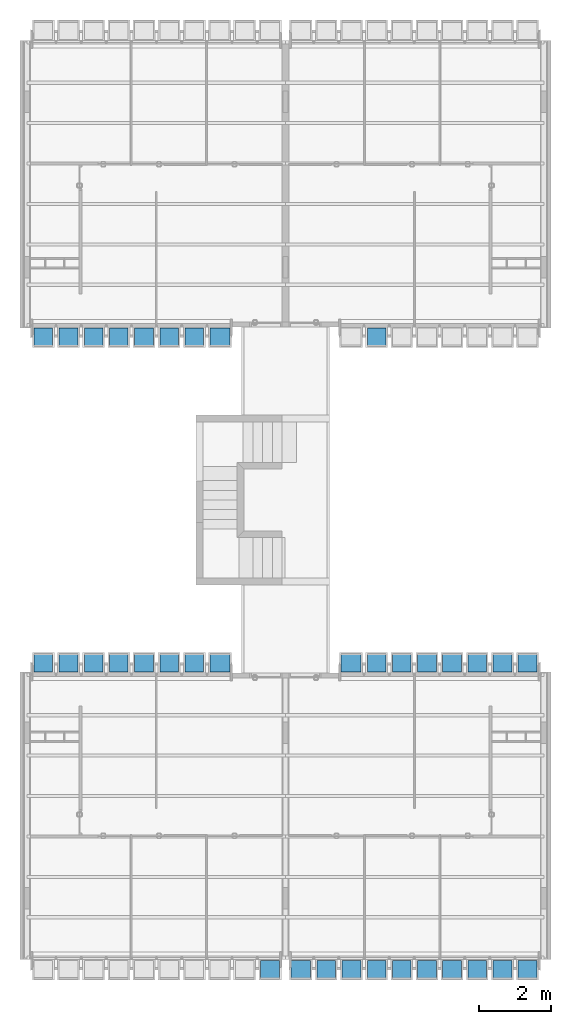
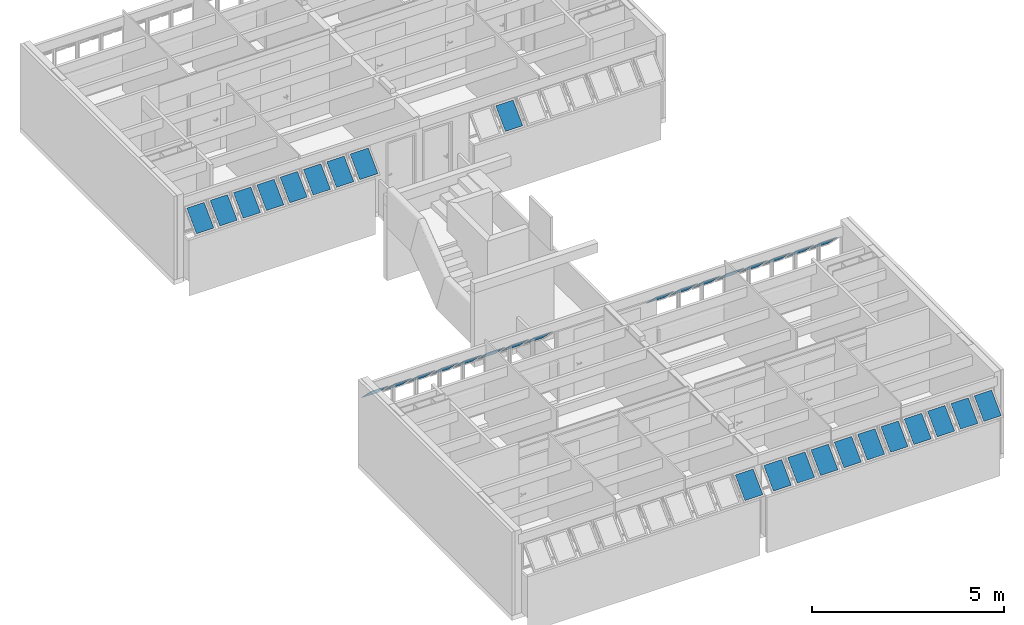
# One storey, part 36 of 38: 36 building element parts, 42 elements without a shape of their own.
"""IFC2X3 building model written with IfcOpenShell, lengths in millimetres."""

from ifc_helpers import new_model, entity, si_unit, converted_unit, derived_unit, money_unit, direction, frame, origin_with_axes, place, context, subcontext, project, spatial, faceted_brep, source, transform, mapped, material, type_object, element, aggregate, save


model = new_model("IFC2X3")

# Units and contexts
model_context = context("Model", 3, precision=0.01, world=origin_with_axes(), true_north=direction((0.0, 1.0)))
body_context = subcontext(model_context, "Body", "Model", "MODEL_VIEW")
ifc_project = project(units=[si_unit("LENGTHUNIT", "METRE", prefix="MILLI"), si_unit("AREAUNIT", "SQUARE_METRE"), si_unit("VOLUMEUNIT", "CUBIC_METRE"), converted_unit("PLANEANGLEUNIT", "DEGREE", entity("IfcPlaneAngleMeasure", 0.0174532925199), si_unit("PLANEANGLEUNIT", "RADIAN"), dimensions=[0, 0, 0, 0, 0, 0, 0]), money_unit("USD"), converted_unit("TIMEUNIT", "Year", entity("IfcTimeMeasure", 31556926.0), si_unit("TIMEUNIT", "SECOND"), dimensions=[0, 0, 1, 0, 0, 0, 0]), si_unit("MASSUNIT", "GRAM", prefix="KILO"), si_unit("THERMODYNAMICTEMPERATUREUNIT", "DEGREE_CELSIUS"), si_unit("LUMINOUSINTENSITYUNIT", "LUMEN"), si_unit("ENERGYUNIT", "JOULE", prefix="MEGA"), derived_unit("THERMALCONDUCTANCEUNIT", [(si_unit("POWERUNIT", "WATT"), 1), (si_unit("LENGTHUNIT", "METRE"), -1), (si_unit("THERMODYNAMICTEMPERATUREUNIT", "KELVIN"), -1)]), derived_unit("SPECIFICHEATCAPACITYUNIT", [(si_unit("ENERGYUNIT", "JOULE"), 1), (si_unit("MASSUNIT", "GRAM", prefix="KILO"), -1), (si_unit("THERMODYNAMICTEMPERATUREUNIT", "KELVIN"), -1)]), derived_unit("MASSDENSITYUNIT", [(si_unit("MASSUNIT", "GRAM", prefix="KILO"), 1), (si_unit("VOLUMEUNIT", "CUBIC_METRE"), -1)])], contexts=[model_context])

# Site, building, storey
site_placement = place(None, origin_with_axes())
site = spatial("IfcSite", under=ifc_project, at=site_placement, Name="Local", CompositionType="ELEMENT")
building_placement = place(site_placement, origin_with_axes())
building = spatial("IfcBuilding", under=site, at=building_placement, Name="Construção", CompositionType="ELEMENT")
storey_placement = place(building_placement, frame((0.0, 0.0, 2650.0), z_axis=(0.0, 0.0, 1.0), x_axis=(1.0, 0.0, 0.0)))
storey = spatial("IfcBuildingStorey", under=building, at=storey_placement, Name="Segundo Pavimento", CompositionType="ELEMENT", Elevation=2650.0)

# Window, plates, building element parts
window_style = type_object("IfcWindowStyle", Name="Tipo de Parede Cortina", ConstructionType="NOTDEFINED", OperationType="NOTDEFINED", ParameterTakesPrecedence=False, Sizeable=False)
window_1_placement = place(storey_placement, frame((12020.0, 8250.0, 1355.00007107), z_axis=(0.0, 0.0, 1.0), x_axis=(1.0, 0.0, 0.0)))
window_1 = element("IfcWindow", 1, at=window_1_placement, inside=storey, type_object=window_style, Name="APTO6-JANELA-000")
plate_type_1 = type_object("IfcPlateType", Name="Painel Principal 690 x 845 x 20", PredefinedType="CURTAIN_PANEL")
plate_1_placement = place(window_1_placement, frame((0.0, 0.0, 422.499964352), z_axis=(0.0, 0.0, 1.0), x_axis=(1.0, 0.0, 0.0)))
plate_1 = element("IfcPlate", 2, at=plate_1_placement, type_object=plate_type_1, Name="APTO6-Painel-Prin-013")
ifc_material = material(Name="Vidro")
shared_shape_1 = source(origin_with_axes(), body_context, "Body", "Brep", [
    faceted_brep([(90.0000036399, 272.749572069, 537.551834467), (609.999997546, 272.749572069, 537.551834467), (609.999997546, 284.063280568, 548.865542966), (90.0000036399, 284.063280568, 548.865542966), (90.0000036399, 778.330843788, 31.9705627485), (609.999997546, 778.330843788, 31.9705627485), (609.999997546, 789.644552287, 43.2842712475), (90.0000036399, 789.644552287, 43.2842712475)], [[[0, 1, 2, 3]], [[0, 4, 5, 1]], [[1, 5, 6, 2]], [[3, 2, 6, 7]], [[4, 0, 3, 7]], [[5, 4, 7, 6]]]),
])
building_element_part_1_placement = place(plate_1_placement, origin_with_axes())
building_element_part_1 = element("IfcBuildingElementPart", 3, at=building_element_part_1_placement, material=ifc_material, Name="Vidro", context=body_context, shape_type="MappedRepresentation", body=[
    mapped(shared_shape_1, transform((350.0, 0.0, -422.499964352), x_axis=(-1.0, 0.0, 0.0), y_axis=(0.0, 0.0, 1.0), z_axis=(0.0, 1.0, 0.0))),
])
aggregate(plate_1, [building_element_part_1])
plate_2_placement = place(window_1_placement, frame((-2100.0, 0.0, 422.499964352), z_axis=(0.0, 0.0, 1.0), x_axis=(1.0, 0.0, 0.0)))
plate_2 = element("IfcPlate", 4, at=plate_2_placement, type_object=plate_type_1, Name="APTO6-Painel-Prin-029")
building_element_part_2_placement = place(plate_2_placement, origin_with_axes())
building_element_part_2 = element("IfcBuildingElementPart", 5, at=building_element_part_2_placement, material=ifc_material, Name="Vidro", context=body_context, shape_type="MappedRepresentation", body=[
    mapped(shared_shape_1, transform((350.0, 0.0, -422.499964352), x_axis=(-1.0, 0.0, 0.0), y_axis=(0.0, 0.0, 1.0), z_axis=(0.0, 1.0, 0.0))),
])
aggregate(plate_2, [building_element_part_2])

window_2_placement = place(storey_placement, frame((2750.0, 17910.0, 1355.00007107), z_axis=(0.0, 0.0, 1.0), x_axis=(1.0, 0.0, 0.0)))
window_2 = element("IfcWindow", 6, at=window_2_placement, inside=storey, type_object=window_style, Name="APTO7-JANELA-000")
plate_3_placement = place(window_2_placement, frame((0.0, 0.0, 422.499964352), z_axis=(0.0, 0.0, 1.0), x_axis=(-1.0, 0.0, 0.0)))
plate_3 = element("IfcPlate", 7, at=plate_3_placement, type_object=plate_type_1, Name="APTO7-Painel-Prin-013")
building_element_part_3_placement = place(plate_3_placement, origin_with_axes())
building_element_part_3 = element("IfcBuildingElementPart", 8, at=building_element_part_3_placement, material=ifc_material, Name="Vidro", context=body_context, shape_type="MappedRepresentation", body=[
    mapped(shared_shape_1, transform((350.0, 0.0, -422.499964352), x_axis=(-1.0, 0.0, 0.0), y_axis=(0.0, 0.0, 1.0), z_axis=(0.0, 1.0, 0.0))),
])
aggregate(plate_3, [building_element_part_3])
plate_4_placement = place(window_2_placement, frame((2100.0, 0.0, 422.499964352), z_axis=(0.0, 0.0, 1.0), x_axis=(-1.0, 0.0, 0.0)))
plate_4 = element("IfcPlate", 9, at=plate_4_placement, type_object=plate_type_1, Name="APTO7-Painel-Prin-029")
building_element_part_4_placement = place(plate_4_placement, origin_with_axes())
building_element_part_4 = element("IfcBuildingElementPart", 10, at=building_element_part_4_placement, material=ifc_material, Name="Vidro", context=body_context, shape_type="MappedRepresentation", body=[
    mapped(shared_shape_1, transform((350.0, 0.0, -422.499964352), x_axis=(-1.0, 0.0, 0.0), y_axis=(0.0, 0.0, 1.0), z_axis=(0.0, 1.0, 0.0))),
])
aggregate(plate_4, [building_element_part_4])

# Window, plate, building element part
window_3_placement = place(storey_placement, frame((6250.0, 315.020977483, 1355.02054151), z_axis=(0.0, 0.0, 1.0), x_axis=(1.0, 0.0, 0.0)))
window_3 = element("IfcWindow", 11, at=window_3_placement, inside=storey, type_object=window_style, Name="APTO5-JANELA-001")
plate_type_2 = type_object("IfcPlateType", Name="Painel Principal 685 x 845 x 20", PredefinedType="CURTAIN_PANEL")
plate_5_placement = place(window_3_placement, frame((695.000037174, 0.0, 422.499953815), z_axis=(0.0, 0.0, 1.0), x_axis=(-1.0, 0.0, 0.0)))
plate_5 = element("IfcPlate", 12, at=plate_5_placement, type_object=plate_type_2, Name="APTO5-Painel-Prin-031")
aggregate(window_3, [plate_5])
shared_shape_2 = source(origin_with_axes(), body_context, "Body", "Brep", [
    faceted_brep([(90.0000046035, 272.749581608, 537.551857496), (625.000079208, 272.749581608, 537.551857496), (625.000079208, 284.063290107, 548.865565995), (90.0000046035, 284.063290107, 548.865565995), (90.0000046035, 778.330876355, 31.9705627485), (625.000079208, 778.330876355, 31.9705627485), (625.000079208, 789.644584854, 43.2842712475), (90.0000046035, 789.644584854, 43.2842712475)], [[[0, 1, 2, 3]], [[0, 4, 5, 1]], [[1, 5, 6, 2]], [[3, 2, 6, 7]], [[4, 0, 3, 7]], [[5, 4, 7, 6]]]),
])
building_element_part_5_placement = place(plate_5_placement, origin_with_axes())
building_element_part_5 = element("IfcBuildingElementPart", 13, at=building_element_part_5_placement, material=ifc_material, Name="Vidro", context=body_context, shape_type="MappedRepresentation", body=[
    mapped(shared_shape_2, transform((345.000037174, 0.0, -422.499953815), x_axis=(-1.0, 0.0, 0.0), y_axis=(0.0, 0.0, 1.0), z_axis=(0.0, 1.0, 0.0))),
])
aggregate(plate_5, [building_element_part_5])

# Plate, building element part
plate_6_placement = place(window_1_placement, frame((2100.0, 0.0, 422.499998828), z_axis=(0.0, 0.0, 1.0), x_axis=(1.0, 0.0, 0.0)))
plate_6 = element("IfcPlate", 14, at=plate_6_placement, type_object=plate_type_1, Name="APTO6-Painel-Prin-013")
shared_shape_3 = source(origin_with_axes(), body_context, "Body", "Brep", [
    faceted_brep([(90.0000036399, 272.749572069, 537.551834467), (609.999997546, 272.749572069, 537.551834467), (609.999997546, 284.063280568, 548.865542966), (90.0000036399, 284.063280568, 548.865542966), (90.0000036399, 778.330843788, 31.9705627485), (609.999997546, 778.330843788, 31.9705627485), (609.999997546, 789.644552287, 43.2842712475), (90.0000036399, 789.644552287, 43.2842712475)], [[[0, 1, 2, 3]], [[0, 4, 5, 1]], [[1, 5, 6, 2]], [[3, 2, 6, 7]], [[4, 0, 3, 7]], [[5, 4, 7, 6]]]),
])
building_element_part_6_placement = place(plate_6_placement, origin_with_axes())
building_element_part_6 = element("IfcBuildingElementPart", 15, at=building_element_part_6_placement, material=ifc_material, Name="Vidro", context=body_context, shape_type="MappedRepresentation", body=[
    mapped(shared_shape_3, transform((350.0, 0.0, -422.499998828), x_axis=(-1.0, 0.0, 0.0), y_axis=(0.0, 0.0, 1.0), z_axis=(0.0, 1.0, 0.0))),
])
aggregate(plate_6, [building_element_part_6])

plate_7_placement = place(window_1_placement, frame((1400.0, 0.0, 422.499964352), z_axis=(0.0, 0.0, 1.0), x_axis=(1.0, 0.0, 0.0)))
plate_7 = element("IfcPlate", 16, at=plate_7_placement, type_object=plate_type_1, Name="APTO6-Painel-Prin-013")
building_element_part_7_placement = place(plate_7_placement, origin_with_axes())
building_element_part_7 = element("IfcBuildingElementPart", 17, at=building_element_part_7_placement, material=ifc_material, Name="Vidro", context=body_context, shape_type="MappedRepresentation", body=[
    mapped(shared_shape_3, transform((350.0, 0.0, -422.499964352), x_axis=(-1.0, 0.0, 0.0), y_axis=(0.0, 0.0, 1.0), z_axis=(0.0, 1.0, 0.0))),
])
aggregate(plate_7, [building_element_part_7])

plate_8_placement = place(window_1_placement, frame((-1400.0, 0.0, 422.499964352), z_axis=(0.0, 0.0, 1.0), x_axis=(1.0, 0.0, 0.0)))
plate_8 = element("IfcPlate", 18, at=plate_8_placement, type_object=plate_type_1, Name="APTO6-Painel-Prin-025")
building_element_part_8_placement = place(plate_8_placement, origin_with_axes())
building_element_part_8 = element("IfcBuildingElementPart", 19, at=building_element_part_8_placement, material=ifc_material, Name="Vidro", context=body_context, shape_type="MappedRepresentation", body=[
    mapped(shared_shape_3, transform((350.0, 0.0, -422.499964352), x_axis=(-1.0, 0.0, 0.0), y_axis=(0.0, 0.0, 1.0), z_axis=(0.0, 1.0, 0.0))),
])
aggregate(plate_8, [building_element_part_8])

plate_9_placement = place(window_2_placement, frame((-2100.0, 0.0, 422.499998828), z_axis=(0.0, 0.0, 1.0), x_axis=(-1.0, 0.0, 0.0)))
plate_9 = element("IfcPlate", 20, at=plate_9_placement, type_object=plate_type_1, Name="APTO7-Painel-Prin-013")
building_element_part_9_placement = place(plate_9_placement, origin_with_axes())
building_element_part_9 = element("IfcBuildingElementPart", 21, at=building_element_part_9_placement, material=ifc_material, Name="Vidro", context=body_context, shape_type="MappedRepresentation", body=[
    mapped(shared_shape_3, transform((350.0, 0.0, -422.499998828), x_axis=(-1.0, 0.0, 0.0), y_axis=(0.0, 0.0, 1.0), z_axis=(0.0, 1.0, 0.0))),
])
aggregate(plate_9, [building_element_part_9])

plate_10_placement = place(window_2_placement, frame((-1400.0, 0.0, 422.499964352), z_axis=(0.0, 0.0, 1.0), x_axis=(-1.0, 0.0, 0.0)))
plate_10 = element("IfcPlate", 22, at=plate_10_placement, type_object=plate_type_1, Name="APTO7-Painel-Prin-013")
building_element_part_10_placement = place(plate_10_placement, origin_with_axes())
building_element_part_10 = element("IfcBuildingElementPart", 23, at=building_element_part_10_placement, material=ifc_material, Name="Vidro", context=body_context, shape_type="MappedRepresentation", body=[
    mapped(shared_shape_3, transform((350.0, 0.0, -422.499964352), x_axis=(-1.0, 0.0, 0.0), y_axis=(0.0, 0.0, 1.0), z_axis=(0.0, 1.0, 0.0))),
])
aggregate(plate_10, [building_element_part_10])

plate_11_placement = place(window_2_placement, frame((1400.0, 0.0, 422.499964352), z_axis=(0.0, 0.0, 1.0), x_axis=(-1.0, 0.0, 0.0)))
plate_11 = element("IfcPlate", 24, at=plate_11_placement, type_object=plate_type_1, Name="APTO7-Painel-Prin-025")
building_element_part_11_placement = place(plate_11_placement, origin_with_axes())
building_element_part_11 = element("IfcBuildingElementPart", 25, at=building_element_part_11_placement, material=ifc_material, Name="Vidro", context=body_context, shape_type="MappedRepresentation", body=[
    mapped(shared_shape_3, transform((350.0, 0.0, -422.499964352), x_axis=(-1.0, 0.0, 0.0), y_axis=(0.0, 0.0, 1.0), z_axis=(0.0, 1.0, 0.0))),
])
aggregate(plate_11, [building_element_part_11])

plate_12_placement = place(window_1_placement, frame((-700.0, 0.0, 422.499964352), z_axis=(0.0, 0.0, 1.0), x_axis=(1.0, 0.0, 0.0)))
plate_12 = element("IfcPlate", 26, at=plate_12_placement, type_object=plate_type_1, Name="APTO6-Painel-Prin-013")
shared_shape_4 = source(origin_with_axes(), body_context, "Body", "Brep", [
    faceted_brep([(90.0000036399, 272.749572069, 537.551834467), (609.999997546, 272.749572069, 537.551834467), (609.999997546, 284.063280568, 548.865542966), (90.0000036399, 284.063280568, 548.865542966), (90.0000036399, 778.330843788, 31.9705627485), (609.999997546, 778.330843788, 31.9705627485), (609.999997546, 789.644552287, 43.2842712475), (90.0000036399, 789.644552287, 43.2842712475)], [[[0, 1, 2, 3]], [[0, 4, 5, 1]], [[1, 5, 6, 2]], [[3, 2, 6, 7]], [[4, 0, 3, 7]], [[5, 4, 7, 6]]]),
])
building_element_part_12_placement = place(plate_12_placement, origin_with_axes())
building_element_part_12 = element("IfcBuildingElementPart", 27, at=building_element_part_12_placement, material=ifc_material, Name="Vidro", context=body_context, shape_type="MappedRepresentation", body=[
    mapped(shared_shape_4, transform((350.0, 0.0, -422.499964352), x_axis=(-1.0, 0.0, 0.0), y_axis=(0.0, 0.0, 1.0), z_axis=(0.0, 1.0, 0.0))),
])
aggregate(plate_12, [building_element_part_12])

plate_13_placement = place(window_1_placement, frame((700.0, 0.0, 422.499964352), z_axis=(0.0, 0.0, 1.0), x_axis=(1.0, 0.0, 0.0)))
plate_13 = element("IfcPlate", 28, at=plate_13_placement, type_object=plate_type_1, Name="APTO6-Painel-Prin-013")
building_element_part_13_placement = place(plate_13_placement, origin_with_axes())
building_element_part_13 = element("IfcBuildingElementPart", 29, at=building_element_part_13_placement, material=ifc_material, Name="Vidro", context=body_context, shape_type="MappedRepresentation", body=[
    mapped(shared_shape_4, transform((350.0, 0.0, -422.499964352), x_axis=(-1.0, 0.0, 0.0), y_axis=(0.0, 0.0, 1.0), z_axis=(0.0, 1.0, 0.0))),
])
aggregate(plate_13, [building_element_part_13])

plate_14_placement = place(window_2_placement, frame((700.0, 0.0, 422.499964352), z_axis=(0.0, 0.0, 1.0), x_axis=(-1.0, 0.0, 0.0)))
plate_14 = element("IfcPlate", 30, at=plate_14_placement, type_object=plate_type_1, Name="APTO7-Painel-Prin-013")
building_element_part_14_placement = place(plate_14_placement, origin_with_axes())
building_element_part_14 = element("IfcBuildingElementPart", 31, at=building_element_part_14_placement, material=ifc_material, Name="Vidro", context=body_context, shape_type="MappedRepresentation", body=[
    mapped(shared_shape_4, transform((350.0, 0.0, -422.499964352), x_axis=(-1.0, 0.0, 0.0), y_axis=(0.0, 0.0, 1.0), z_axis=(0.0, 1.0, 0.0))),
])
aggregate(plate_14, [building_element_part_14])

plate_15_placement = place(window_2_placement, frame((-700.0, 0.0, 422.499964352), z_axis=(0.0, 0.0, 1.0), x_axis=(-1.0, 0.0, 0.0)))
plate_15 = element("IfcPlate", 32, at=plate_15_placement, type_object=plate_type_1, Name="APTO7-Painel-Prin-013")
building_element_part_15_placement = place(plate_15_placement, origin_with_axes())
building_element_part_15 = element("IfcBuildingElementPart", 33, at=building_element_part_15_placement, material=ifc_material, Name="Vidro", context=body_context, shape_type="MappedRepresentation", body=[
    mapped(shared_shape_4, transform((350.0, 0.0, -422.499964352), x_axis=(-1.0, 0.0, 0.0), y_axis=(0.0, 0.0, 1.0), z_axis=(0.0, 1.0, 0.0))),
])
aggregate(plate_15, [building_element_part_15])

# Window, plates, building element parts
window_4_placement = place(storey_placement, frame((2750.0, 8250.0, 1355.00007107), z_axis=(0.0, 0.0, 1.0), x_axis=(1.0, 0.0, 0.0)))
window_4 = element("IfcWindow", 34, at=window_4_placement, inside=storey, type_object=window_style, Name="APTO5-JANELA-000")
plate_16_placement = place(window_4_placement, frame((0.0, 0.0, 422.499964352), z_axis=(0.0, 0.0, 1.0), x_axis=(-1.0, 0.0, 0.0)))
plate_16 = element("IfcPlate", 35, at=plate_16_placement, type_object=plate_type_1, Name="APTO5-Painel-Prin-013")
shared_shape_5 = source(origin_with_axes(), body_context, "Body", "Brep", [
    faceted_brep([(-90.0000036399, 272.749572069, 537.551834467), (-90.0000036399, 284.063280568, 548.865542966), (-609.999997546, 284.063280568, 548.865542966), (-609.999997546, 272.749572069, 537.551834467), (-90.0000036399, 778.330843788, 31.9705627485), (-90.0000036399, 789.644552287, 43.2842712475), (-609.999997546, 789.644552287, 43.2842712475), (-609.999997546, 778.330843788, 31.9705627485)], [[[0, 1, 2, 3]], [[4, 5, 1, 0]], [[1, 5, 6, 2]], [[3, 2, 6, 7]], [[0, 3, 7, 4]], [[7, 6, 5, 4]]]),
])
building_element_part_16_placement = place(plate_16_placement, origin_with_axes())
building_element_part_16 = element("IfcBuildingElementPart", 36, at=building_element_part_16_placement, material=ifc_material, Name="Vidro", context=body_context, shape_type="MappedRepresentation", body=[
    mapped(shared_shape_5, transform((350.0, 0.0, -422.499964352), x_axis=(1.0, 0.0, 0.0), y_axis=(0.0, 0.0, 1.0), z_axis=(0.0, -1.0, 0.0))),
])
aggregate(plate_16, [building_element_part_16])
plate_17_placement = place(window_4_placement, frame((2100.0, 0.0, 422.499964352), z_axis=(0.0, 0.0, 1.0), x_axis=(-1.0, 0.0, 0.0)))
plate_17 = element("IfcPlate", 37, at=plate_17_placement, type_object=plate_type_1, Name="APTO5-Painel-Prin-029")
building_element_part_17_placement = place(plate_17_placement, origin_with_axes())
building_element_part_17 = element("IfcBuildingElementPart", 38, at=building_element_part_17_placement, material=ifc_material, Name="Vidro", context=body_context, shape_type="MappedRepresentation", body=[
    mapped(shared_shape_5, transform((350.0, 0.0, -422.499964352), x_axis=(1.0, 0.0, 0.0), y_axis=(0.0, 0.0, 1.0), z_axis=(0.0, -1.0, 0.0))),
])
aggregate(plate_17, [building_element_part_17])

window_5_placement = place(storey_placement, frame((8520.0, 315.020977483, 1355.02054151), z_axis=(0.0, 0.0, 1.0), x_axis=(1.0, 0.0, 0.0)))
window_5 = element("IfcWindow", 39, at=window_5_placement, inside=storey, type_object=window_style, Name="APTO6-JANELA-001")
plate_18_placement = place(window_5_placement, frame((0.0, 0.0, 422.499945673), z_axis=(0.0, 0.0, 1.0), x_axis=(1.0, 0.0, 0.0)))
plate_18 = element("IfcPlate", 40, at=plate_18_placement, type_object=plate_type_1, Name="APTO6-Painel-Prin-030")
building_element_part_18_placement = place(plate_18_placement, origin_with_axes())
building_element_part_18 = element("IfcBuildingElementPart", 41, at=building_element_part_18_placement, material=ifc_material, Name="Vidro", context=body_context, shape_type="MappedRepresentation", body=[
    mapped(shared_shape_5, transform((350.0, 0.0, -422.499945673), x_axis=(1.0, 0.0, 0.0), y_axis=(0.0, 0.0, 1.0), z_axis=(0.0, -1.0, 0.0))),
])
aggregate(plate_18, [building_element_part_18])
plate_19_placement = place(window_5_placement, frame((700.0, 0.0, 422.499945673), z_axis=(0.0, 0.0, 1.0), x_axis=(1.0, 0.0, 0.0)))
plate_19 = element("IfcPlate", 42, at=plate_19_placement, type_object=plate_type_1, Name="APTO6-Painel-Prin-020")
building_element_part_19_placement = place(plate_19_placement, origin_with_axes())
building_element_part_19 = element("IfcBuildingElementPart", 43, at=building_element_part_19_placement, material=ifc_material, Name="Vidro", context=body_context, shape_type="MappedRepresentation", body=[
    mapped(shared_shape_5, transform((350.0, 0.0, -422.499945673), x_axis=(1.0, 0.0, 0.0), y_axis=(0.0, 0.0, 1.0), z_axis=(0.0, -1.0, 0.0))),
])
aggregate(plate_19, [building_element_part_19])
plate_20_placement = place(window_5_placement, frame((1400.0, 0.0, 422.499945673), z_axis=(0.0, 0.0, 1.0), x_axis=(1.0, 0.0, 0.0)))
plate_20 = element("IfcPlate", 44, at=plate_20_placement, type_object=plate_type_1, Name="APTO6-Painel-Prin-029")
building_element_part_20_placement = place(plate_20_placement, origin_with_axes())
building_element_part_20 = element("IfcBuildingElementPart", 45, at=building_element_part_20_placement, material=ifc_material, Name="Vidro", context=body_context, shape_type="MappedRepresentation", body=[
    mapped(shared_shape_5, transform((350.0, 0.0, -422.499945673), x_axis=(1.0, 0.0, 0.0), y_axis=(0.0, 0.0, 1.0), z_axis=(0.0, -1.0, 0.0))),
])
aggregate(plate_20, [building_element_part_20])
plate_21_placement = place(window_5_placement, frame((3500.0, 0.0, 422.499945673), z_axis=(0.0, 0.0, 1.0), x_axis=(1.0, 0.0, 0.0)))
plate_21 = element("IfcPlate", 46, at=plate_21_placement, type_object=plate_type_1, Name="APTO6-Painel-Prin-013")
building_element_part_21_placement = place(plate_21_placement, origin_with_axes())
building_element_part_21 = element("IfcBuildingElementPart", 47, at=building_element_part_21_placement, material=ifc_material, Name="Vidro", context=body_context, shape_type="MappedRepresentation", body=[
    mapped(shared_shape_5, transform((350.0, 0.0, -422.499945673), x_axis=(1.0, 0.0, 0.0), y_axis=(0.0, 0.0, 1.0), z_axis=(0.0, -1.0, 0.0))),
])
aggregate(plate_21, [building_element_part_21])

# Window, plate, building element part
window_6_placement = place(storey_placement, frame((12020.0, 17910.0, 1355.00007107), z_axis=(0.0, 0.0, 1.0), x_axis=(1.0, 0.0, 0.0)))
window_6 = element("IfcWindow", 48, at=window_6_placement, inside=storey, type_object=window_style, Name="APTO8-JANELA-000")
plate_22_placement = place(window_6_placement, frame((-2100.0, 0.0, 422.499964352), z_axis=(0.0, 0.0, 1.0), x_axis=(1.0, 0.0, 0.0)))
plate_22 = element("IfcPlate", 49, at=plate_22_placement, type_object=plate_type_1, Name="APTO8-Painel-Prin-029")
aggregate(window_6, [plate_22])
building_element_part_22_placement = place(plate_22_placement, origin_with_axes())
building_element_part_22 = element("IfcBuildingElementPart", 50, at=building_element_part_22_placement, material=ifc_material, Name="Vidro", context=body_context, shape_type="MappedRepresentation", body=[
    mapped(shared_shape_5, transform((350.0, 0.0, -422.499964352), x_axis=(1.0, 0.0, 0.0), y_axis=(0.0, 0.0, 1.0), z_axis=(0.0, -1.0, 0.0))),
])
aggregate(plate_22, [building_element_part_22])

# Plate, building element part
plate_23_placement = place(window_4_placement, frame((-2100.0, 0.0, 422.499998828), z_axis=(0.0, 0.0, 1.0), x_axis=(-1.0, 0.0, 0.0)))
plate_23 = element("IfcPlate", 51, at=plate_23_placement, type_object=plate_type_1, Name="APTO5-Painel-Prin-013")
shared_shape_6 = source(origin_with_axes(), body_context, "Body", "Brep", [
    faceted_brep([(-90.0000036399, 272.749572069, 537.551834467), (-90.0000036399, 284.063280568, 548.865542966), (-609.999997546, 284.063280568, 548.865542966), (-609.999997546, 272.749572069, 537.551834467), (-90.0000036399, 778.330843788, 31.9705627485), (-90.0000036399, 789.644552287, 43.2842712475), (-609.999997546, 789.644552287, 43.2842712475), (-609.999997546, 778.330843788, 31.9705627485)], [[[0, 1, 2, 3]], [[4, 5, 1, 0]], [[1, 5, 6, 2]], [[3, 2, 6, 7]], [[0, 3, 7, 4]], [[7, 6, 5, 4]]]),
])
building_element_part_23_placement = place(plate_23_placement, origin_with_axes())
building_element_part_23 = element("IfcBuildingElementPart", 52, at=building_element_part_23_placement, material=ifc_material, Name="Vidro", context=body_context, shape_type="MappedRepresentation", body=[
    mapped(shared_shape_6, transform((350.0, 0.0, -422.499998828), x_axis=(1.0, 0.0, 0.0), y_axis=(0.0, 0.0, 1.0), z_axis=(0.0, -1.0, 0.0))),
])
aggregate(plate_23, [building_element_part_23])

plate_24_placement = place(window_4_placement, frame((-1400.0, 0.0, 422.499964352), z_axis=(0.0, 0.0, 1.0), x_axis=(-1.0, 0.0, 0.0)))
plate_24 = element("IfcPlate", 53, at=plate_24_placement, type_object=plate_type_1, Name="APTO5-Painel-Prin-013")
building_element_part_24_placement = place(plate_24_placement, origin_with_axes())
building_element_part_24 = element("IfcBuildingElementPart", 54, at=building_element_part_24_placement, material=ifc_material, Name="Vidro", context=body_context, shape_type="MappedRepresentation", body=[
    mapped(shared_shape_6, transform((350.0, 0.0, -422.499964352), x_axis=(1.0, 0.0, 0.0), y_axis=(0.0, 0.0, 1.0), z_axis=(0.0, -1.0, 0.0))),
])
aggregate(plate_24, [building_element_part_24])

plate_25_placement = place(window_4_placement, frame((1400.0, 0.0, 422.499964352), z_axis=(0.0, 0.0, 1.0), x_axis=(-1.0, 0.0, 0.0)))
plate_25 = element("IfcPlate", 55, at=plate_25_placement, type_object=plate_type_1, Name="APTO5-Painel-Prin-025")
building_element_part_25_placement = place(plate_25_placement, origin_with_axes())
building_element_part_25 = element("IfcBuildingElementPart", 56, at=building_element_part_25_placement, material=ifc_material, Name="Vidro", context=body_context, shape_type="MappedRepresentation", body=[
    mapped(shared_shape_6, transform((350.0, 0.0, -422.499964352), x_axis=(1.0, 0.0, 0.0), y_axis=(0.0, 0.0, 1.0), z_axis=(0.0, -1.0, 0.0))),
])
aggregate(plate_25, [building_element_part_25])

plate_26_placement = place(window_5_placement, frame((5600.0, 0.0, 422.499945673), z_axis=(0.0, 0.0, 1.0), x_axis=(1.0, 0.0, 0.0)))
plate_26 = element("IfcPlate", 57, at=plate_26_placement, type_object=plate_type_1, Name="APTO6-Painel-Prin-013")
building_element_part_26_placement = place(plate_26_placement, origin_with_axes())
building_element_part_26 = element("IfcBuildingElementPart", 58, at=building_element_part_26_placement, material=ifc_material, Name="Vidro", context=body_context, shape_type="MappedRepresentation", body=[
    mapped(shared_shape_6, transform((350.0, 0.0, -422.499945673), x_axis=(1.0, 0.0, 0.0), y_axis=(0.0, 0.0, 1.0), z_axis=(0.0, -1.0, 0.0))),
])
aggregate(plate_26, [building_element_part_26])

plate_27_placement = place(window_5_placement, frame((4900.0, 0.0, 422.499945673), z_axis=(0.0, 0.0, 1.0), x_axis=(1.0, 0.0, 0.0)))
plate_27 = element("IfcPlate", 59, at=plate_27_placement, type_object=plate_type_1, Name="APTO6-Painel-Prin-013")
building_element_part_27_placement = place(plate_27_placement, origin_with_axes())
building_element_part_27 = element("IfcBuildingElementPart", 60, at=building_element_part_27_placement, material=ifc_material, Name="Vidro", context=body_context, shape_type="MappedRepresentation", body=[
    mapped(shared_shape_6, transform((350.0, 0.0, -422.499945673), x_axis=(1.0, 0.0, 0.0), y_axis=(0.0, 0.0, 1.0), z_axis=(0.0, -1.0, 0.0))),
])
aggregate(plate_27, [building_element_part_27])

plate_28_placement = place(window_5_placement, frame((2100.0, 0.0, 422.499945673), z_axis=(0.0, 0.0, 1.0), x_axis=(1.0, 0.0, 0.0)))
plate_28 = element("IfcPlate", 61, at=plate_28_placement, type_object=plate_type_1, Name="APTO6-Painel-Prin-025")
building_element_part_28_placement = place(plate_28_placement, origin_with_axes())
building_element_part_28 = element("IfcBuildingElementPart", 62, at=building_element_part_28_placement, material=ifc_material, Name="Vidro", context=body_context, shape_type="MappedRepresentation", body=[
    mapped(shared_shape_6, transform((350.0, 0.0, -422.499945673), x_axis=(1.0, 0.0, 0.0), y_axis=(0.0, 0.0, 1.0), z_axis=(0.0, -1.0, 0.0))),
])
aggregate(plate_28, [building_element_part_28])

plate_29_placement = place(window_4_placement, frame((700.0, 0.0, 422.499964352), z_axis=(0.0, 0.0, 1.0), x_axis=(-1.0, 0.0, 0.0)))
plate_29 = element("IfcPlate", 63, at=plate_29_placement, type_object=plate_type_1, Name="APTO5-Painel-Prin-013")
shared_shape_7 = source(origin_with_axes(), body_context, "Body", "Brep", [
    faceted_brep([(-90.0000036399, 272.749572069, 537.551834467), (-90.0000036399, 284.063280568, 548.865542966), (-609.999997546, 284.063280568, 548.865542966), (-609.999997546, 272.749572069, 537.551834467), (-90.0000036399, 778.330843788, 31.9705627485), (-90.0000036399, 789.644552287, 43.2842712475), (-609.999997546, 789.644552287, 43.2842712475), (-609.999997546, 778.330843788, 31.9705627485)], [[[0, 1, 2, 3]], [[4, 5, 1, 0]], [[1, 5, 6, 2]], [[3, 2, 6, 7]], [[0, 3, 7, 4]], [[7, 6, 5, 4]]]),
])
building_element_part_29_placement = place(plate_29_placement, origin_with_axes())
building_element_part_29 = element("IfcBuildingElementPart", 64, at=building_element_part_29_placement, material=ifc_material, Name="Vidro", context=body_context, shape_type="MappedRepresentation", body=[
    mapped(shared_shape_7, transform((350.0, 0.0, -422.499964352), x_axis=(1.0, 0.0, 0.0), y_axis=(0.0, 0.0, 1.0), z_axis=(0.0, -1.0, 0.0))),
])
aggregate(plate_29, [building_element_part_29])

plate_30_placement = place(window_4_placement, frame((-700.0, 0.0, 422.499964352), z_axis=(0.0, 0.0, 1.0), x_axis=(-1.0, 0.0, 0.0)))
plate_30 = element("IfcPlate", 65, at=plate_30_placement, type_object=plate_type_1, Name="APTO5-Painel-Prin-013")
building_element_part_30_placement = place(plate_30_placement, origin_with_axes())
building_element_part_30 = element("IfcBuildingElementPart", 66, at=building_element_part_30_placement, material=ifc_material, Name="Vidro", context=body_context, shape_type="MappedRepresentation", body=[
    mapped(shared_shape_7, transform((350.0, 0.0, -422.499964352), x_axis=(1.0, 0.0, 0.0), y_axis=(0.0, 0.0, 1.0), z_axis=(0.0, -1.0, 0.0))),
])
aggregate(plate_30, [building_element_part_30])

plate_31_placement = place(window_5_placement, frame((2800.0, 0.0, 422.499945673), z_axis=(0.0, 0.0, 1.0), x_axis=(1.0, 0.0, 0.0)))
plate_31 = element("IfcPlate", 67, at=plate_31_placement, type_object=plate_type_1, Name="APTO6-Painel-Prin-013")
building_element_part_31_placement = place(plate_31_placement, origin_with_axes())
building_element_part_31 = element("IfcBuildingElementPart", 68, at=building_element_part_31_placement, material=ifc_material, Name="Vidro", context=body_context, shape_type="MappedRepresentation", body=[
    mapped(shared_shape_7, transform((350.0, 0.0, -422.499945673), x_axis=(1.0, 0.0, 0.0), y_axis=(0.0, 0.0, 1.0), z_axis=(0.0, -1.0, 0.0))),
])
aggregate(plate_31, [building_element_part_31])

plate_32_placement = place(window_5_placement, frame((4200.0, 0.0, 422.499945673), z_axis=(0.0, 0.0, 1.0), x_axis=(1.0, 0.0, 0.0)))
plate_32 = element("IfcPlate", 69, at=plate_32_placement, type_object=plate_type_1, Name="APTO6-Painel-Prin-013")
building_element_part_32_placement = place(plate_32_placement, origin_with_axes())
building_element_part_32 = element("IfcBuildingElementPart", 70, at=building_element_part_32_placement, material=ifc_material, Name="Vidro", context=body_context, shape_type="MappedRepresentation", body=[
    mapped(shared_shape_7, transform((350.0, 0.0, -422.499945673), x_axis=(1.0, 0.0, 0.0), y_axis=(0.0, 0.0, 1.0), z_axis=(0.0, -1.0, 0.0))),
])
aggregate(plate_32, [building_element_part_32])

# Plate
plate_type_3 = type_object("IfcPlateType", Name="Painel Principal 695 x 845 x 20", PredefinedType="CURTAIN_PANEL")
plate_33_placement = place(window_4_placement, frame((2800.0, 0.0, 422.499986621), z_axis=(0.0, 0.0, 1.0), x_axis=(-1.0, 0.0, 0.0)))
plate_33 = element("IfcPlate", 71, at=plate_33_placement, type_object=plate_type_3, Name="APTO5-Painel-Prin-020")

aggregate(window_4, [plate_16, plate_17, plate_23, plate_24, plate_29, plate_25, plate_33, plate_30])

# Building element part
shared_shape_8 = source(origin_with_axes(), body_context, "Body", "Brep", [
    faceted_brep([(-90.0000062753, 272.749598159, 537.551897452), (-90.0000062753, 284.063306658, 548.865605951), (-634.999999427, 284.063306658, 548.865605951), (-634.999999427, 272.749598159, 537.551897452), (-90.0000062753, 778.330932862, 31.9705627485), (-90.0000062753, 789.644641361, 43.2842712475), (-634.999999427, 789.644641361, 43.2842712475), (-634.999999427, 778.330932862, 31.9705627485)], [[[0, 1, 2, 3]], [[4, 5, 1, 0]], [[1, 5, 6, 2]], [[3, 2, 6, 7]], [[0, 3, 7, 4]], [[7, 6, 5, 4]]]),
])
building_element_part_33_placement = place(plate_33_placement, origin_with_axes())
building_element_part_33 = element("IfcBuildingElementPart", 72, at=building_element_part_33_placement, material=ifc_material, Name="Vidro", context=body_context, shape_type="MappedRepresentation", body=[
    mapped(shared_shape_8, transform((350.0, 0.0, -422.499986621), x_axis=(1.0, 0.0, 0.0), y_axis=(0.0, 0.0, 1.0), z_axis=(0.0, -1.0, 0.0))),
])

aggregate(plate_33, [building_element_part_33])

# Plate
plate_34_placement = place(window_5_placement, frame((-695.000037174, 0.0, 422.499953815), z_axis=(0.0, 0.0, 1.0), x_axis=(1.0, 0.0, 0.0)))
plate_34 = element("IfcPlate", 73, at=plate_34_placement, type_object=plate_type_2, Name="APTO6-Painel-Prin-031")

aggregate(window_5, [plate_18, plate_34, plate_26, plate_27, plate_31, plate_28, plate_19, plate_32, plate_20, plate_21])

# Building element part
shared_shape_9 = source(origin_with_axes(), body_context, "Body", "Brep", [
    faceted_brep([(-90.0000046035, 272.749581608, 537.551857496), (-90.0000046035, 284.063290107, 548.865565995), (-625.000079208, 284.063290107, 548.865565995), (-625.000079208, 272.749581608, 537.551857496), (-90.0000046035, 778.330876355, 31.9705627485), (-90.0000046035, 789.644584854, 43.2842712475), (-625.000079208, 789.644584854, 43.2842712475), (-625.000079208, 778.330876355, 31.9705627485)], [[[0, 1, 2, 3]], [[4, 5, 1, 0]], [[1, 5, 6, 2]], [[3, 2, 6, 7]], [[0, 3, 7, 4]], [[7, 6, 5, 4]]]),
])
building_element_part_34_placement = place(plate_34_placement, origin_with_axes())
building_element_part_34 = element("IfcBuildingElementPart", 74, at=building_element_part_34_placement, material=ifc_material, Name="Vidro", context=body_context, shape_type="MappedRepresentation", body=[
    mapped(shared_shape_9, transform((345.000037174, 0.0, -422.499953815), x_axis=(1.0, 0.0, 0.0), y_axis=(0.0, 0.0, 1.0), z_axis=(0.0, -1.0, 0.0))),
])

aggregate(plate_34, [building_element_part_34])

# Plate
plate_35_placement = place(window_1_placement, frame((-2800.0, 0.0, 422.499986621), z_axis=(0.0, 0.0, 1.0), x_axis=(1.0, 0.0, 0.0)))
plate_35 = element("IfcPlate", 75, at=plate_35_placement, type_object=plate_type_3, Name="APTO6-Painel-Prin-020")

aggregate(window_1, [plate_1, plate_2, plate_6, plate_7, plate_12, plate_8, plate_35, plate_13])

# Building element part
shared_shape_10 = source(origin_with_axes(), body_context, "Body", "Brep", [
    faceted_brep([(90.0000062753, 272.749598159, 537.551897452), (634.999999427, 272.749598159, 537.551897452), (634.999999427, 284.063306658, 548.865605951), (90.0000062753, 284.063306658, 548.865605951), (90.0000062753, 778.330932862, 31.9705627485), (634.999999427, 778.330932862, 31.9705627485), (634.999999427, 789.644641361, 43.2842712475), (90.0000062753, 789.644641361, 43.2842712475)], [[[0, 1, 2, 3]], [[0, 4, 5, 1]], [[1, 5, 6, 2]], [[3, 2, 6, 7]], [[4, 0, 3, 7]], [[5, 4, 7, 6]]]),
])
building_element_part_35_placement = place(plate_35_placement, origin_with_axes())
building_element_part_35 = element("IfcBuildingElementPart", 76, at=building_element_part_35_placement, material=ifc_material, Name="Vidro", context=body_context, shape_type="MappedRepresentation", body=[
    mapped(shared_shape_10, transform((350.0, 0.0, -422.499986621), x_axis=(-1.0, 0.0, 0.0), y_axis=(0.0, 0.0, 1.0), z_axis=(0.0, 1.0, 0.0))),
])

aggregate(plate_35, [building_element_part_35])

# Plate
plate_36_placement = place(window_2_placement, frame((2800.0, 0.0, 422.499986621), z_axis=(0.0, 0.0, 1.0), x_axis=(-1.0, 0.0, 0.0)))
plate_36 = element("IfcPlate", 77, at=plate_36_placement, type_object=plate_type_3, Name="APTO7-Painel-Prin-020")

aggregate(window_2, [plate_3, plate_4, plate_9, plate_10, plate_14, plate_11, plate_36, plate_15])

# Building element part
building_element_part_36_placement = place(plate_36_placement, origin_with_axes())
building_element_part_36 = element("IfcBuildingElementPart", 78, at=building_element_part_36_placement, material=ifc_material, Name="Vidro", context=body_context, shape_type="MappedRepresentation", body=[
    mapped(shared_shape_10, transform((350.0, 0.0, -422.499986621), x_axis=(-1.0, 0.0, 0.0), y_axis=(0.0, 0.0, 1.0), z_axis=(0.0, 1.0, 0.0))),
])

aggregate(plate_36, [building_element_part_36])

save(model, "model.ifc")
